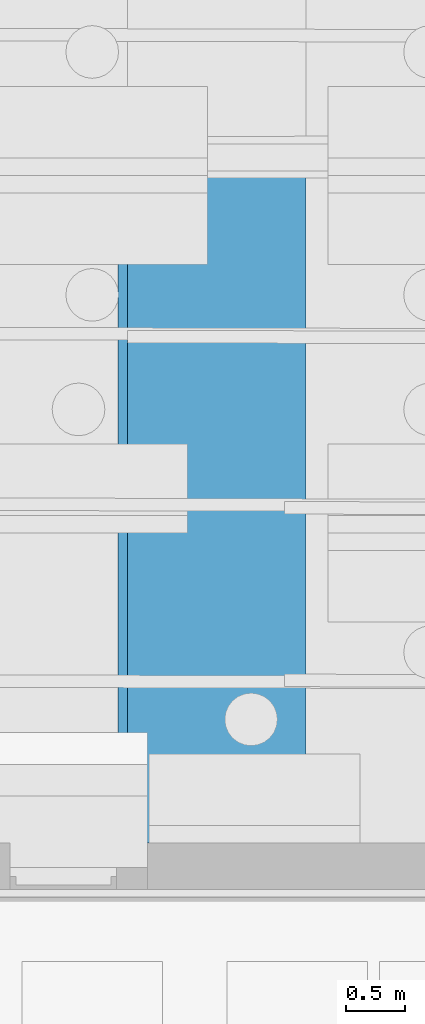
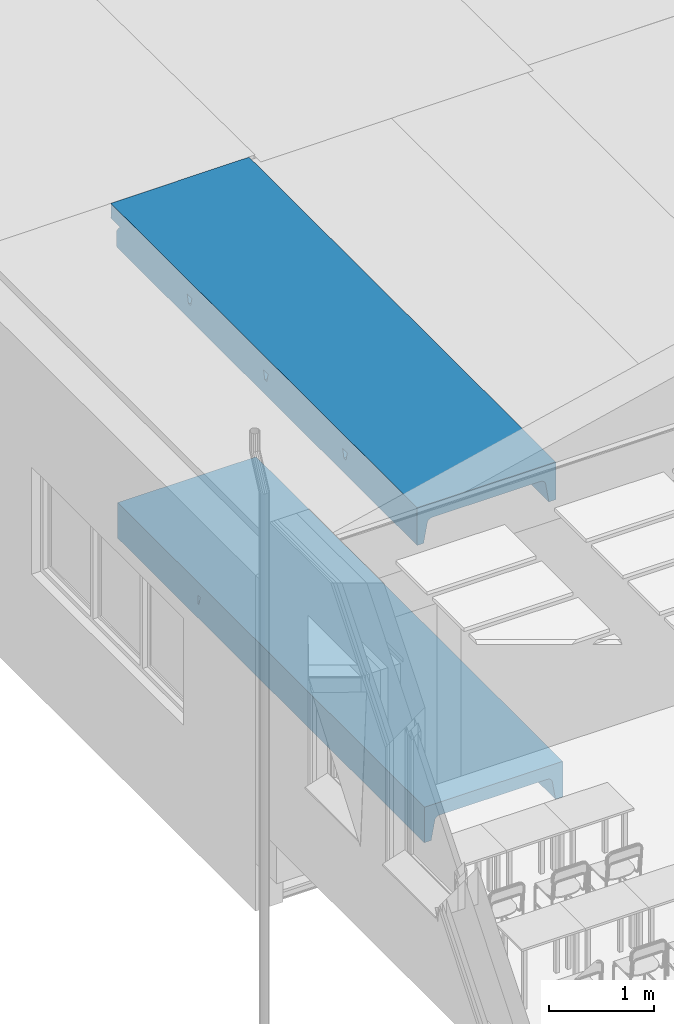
# One storey, part 14 of 153: 2 beams.
"""IFC2X3 building model written with IfcOpenShell, lengths in millimetres."""

from ifc_helpers import new_model, entity, si_unit, converted_unit, derived_unit, money_unit, direction, frame, origin_with_axes, place, context, subcontext, project, spatial, faceted_brep, material, type_object, element, save


model = new_model("IFC2X3")

# Units and contexts
model_context = context("Model", 3, precision=0.01, world=origin_with_axes(), true_north=direction((0.0, 1.0)))
body_context = subcontext(model_context, "Body", "Model", "MODEL_VIEW")
ifc_project = project(units=[si_unit("LENGTHUNIT", "METRE", prefix="MILLI"), si_unit("AREAUNIT", "SQUARE_METRE"), si_unit("VOLUMEUNIT", "CUBIC_METRE"), converted_unit("PLANEANGLEUNIT", "DEGREE", entity("IfcPlaneAngleMeasure", 0.0174532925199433), si_unit("PLANEANGLEUNIT", "RADIAN"), dimensions=[0, 0, 0, 0, 0, 0, 0]), money_unit("EUR"), converted_unit("TIMEUNIT", "Year", entity("IfcTimeMeasure", 31557600.0), si_unit("TIMEUNIT", "SECOND"), dimensions=[0, 0, 1, 0, 0, 0, 0]), si_unit("MASSUNIT", "GRAM", prefix="KILO"), si_unit("THERMODYNAMICTEMPERATUREUNIT", "DEGREE_CELSIUS"), si_unit("LUMINOUSINTENSITYUNIT", "LUMEN"), si_unit("ENERGYUNIT", "JOULE", prefix="MEGA"), derived_unit("THERMALCONDUCTANCEUNIT", [(si_unit("POWERUNIT", "WATT"), 1), (si_unit("LENGTHUNIT", "METRE"), -1), (si_unit("THERMODYNAMICTEMPERATUREUNIT", "KELVIN"), -1)]), derived_unit("SPECIFICHEATCAPACITYUNIT", [(si_unit("ENERGYUNIT", "JOULE"), 1), (si_unit("MASSUNIT", "GRAM", prefix="KILO"), -1), (si_unit("THERMODYNAMICTEMPERATUREUNIT", "KELVIN"), -1)]), derived_unit("MASSDENSITYUNIT", [(si_unit("MASSUNIT", "GRAM", prefix="KILO"), 1), (si_unit("VOLUMEUNIT", "CUBIC_METRE"), -1)])], contexts=[model_context])

# Site, building, storey
site_placement = place(None, frame((0.0, 0.0, 8650.0), z_axis=(0.0, 0.0, 1.0), x_axis=(1.0, 0.0, 0.0)))
site = spatial("IfcSite", under=ifc_project, at=site_placement, Name="43301:001:0844", CompositionType="ELEMENT")
building_placement = place(site_placement, origin_with_axes())
building = spatial("IfcBuilding", under=site, at=building_placement, Name="Kuressaare Ametikooli tuulikute mehaanikute õppekorpus", CompositionType="ELEMENT")
storey_placement = place(building_placement, frame((0.0, 0.0, 4100.0), z_axis=(0.0, 0.0, 1.0), x_axis=(1.0, 0.0, 0.0)))
storey = spatial("IfcBuildingStorey", under=building, at=storey_placement, Name="2.korrus", CompositionType="ELEMENT", Elevation=4100.0)

# Beams
ifc_material = material(Name="GENEERILINE - KONSTRUKTRIOON")
beam_type_1 = type_object("IfcBeamType", Name="Precast Double Tee 2 1527 x 440", PredefinedType="NOTDEFINED")
beam_1_placement = place(storey_placement, frame((90502.31710030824, 32034.33665916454, 2975.0), z_axis=(0.0, 0.0, 1.0), x_axis=(-1.0, 0.0, 0.0)))
element("IfcBeam", 1, at=beam_1_placement, inside=storey, type_object=beam_type_1, material=ifc_material, context=body_context, shape_type="Brep", body=[
    faceted_brep([(692.2949924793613, 5851.267735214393, -440.0001340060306), (692.2949924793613, 121.0682299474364, -440.0001340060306), (691.3689364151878, 121.0656825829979, -434.9999999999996), (691.3689364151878, 114.3234227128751, -434.9999999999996), (658.6683809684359, 114.2061630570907, -258.4370837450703), (652.713619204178, 133.4062917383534, -226.2850273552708), (649.7230638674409, 145.8392759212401, -210.1378651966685), (649.7230638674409, 1474.229054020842, -210.1378651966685), (661.1458352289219, 1488.80525832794, -271.8138152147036), (661.1458352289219, 1528.80540115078, -271.8138152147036), (649.7230638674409, 1543.442010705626, -210.1378651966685), (649.7230638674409, 2929.978512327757, -210.1378651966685), (661.1458352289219, 2944.554716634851, -271.8138152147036), (661.1458352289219, 2984.554859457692, -271.8138152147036), (649.7230638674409, 2999.191469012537, -210.1378651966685), (649.7230638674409, 4439.785670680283, -210.1378651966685), (661.1458352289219, 4454.361874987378, -271.8138152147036), (661.1458352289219, 4494.362017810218, -271.8138152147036), (649.7230638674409, 4508.998627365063, -210.1378651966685), (649.7230638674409, 5851.267735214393, -210.1378651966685), (763.5606534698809, 5851.267735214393, -440.0001340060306), (763.5606534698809, 121.2642651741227, -440.0001340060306), (763.5606534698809, 121.2642651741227, -434.9999999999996), (763.5606534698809, 114.5834813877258, -434.9999999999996), (763.5606534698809, 114.5840200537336, -258.4370837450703), (763.5606534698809, 133.8055997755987, -226.2850273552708), (763.5606534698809, 156.671540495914, -196.6139201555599), (644.9890973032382, 156.2444061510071, -196.6139201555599), (644.7992800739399, 1470.910907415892, -196.0716523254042), (644.7992800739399, 156.7741320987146, -196.0716523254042), (635.9235751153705, 1468.131666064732, -184.2363394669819), (763.5606534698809, 1467.790582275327, -184.2363394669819), (763.5606534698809, 1488.531575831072, -271.8138152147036), (763.5606534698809, 1528.531718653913, -271.8138152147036), (644.7992800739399, 1546.786325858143, -196.0716523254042), (763.5606534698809, 1549.271750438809, -184.2365347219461), (635.923721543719, 1549.612833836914, -184.2365347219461), (644.7992800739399, 2926.660365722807, -196.0716523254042), (763.5606534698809, 2923.540040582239, -184.2363394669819), (763.5606534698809, 2944.281034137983, -271.8138152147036), (635.9235751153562, 2923.881124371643, -184.2363394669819), (763.5606534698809, 2984.281176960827, -271.8138152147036), (763.5606534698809, 3005.02120874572, -184.2365347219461), (635.923721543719, 3005.362292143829, -184.2365347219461), (644.7992800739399, 3002.535784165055, -196.0716523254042), (644.7992800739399, 4436.467524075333, -196.0716523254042), (763.5606534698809, 4454.08819249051, -271.8138152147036), (635.9235751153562, 4433.68828272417, -184.2363394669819), (763.5606534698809, 4433.347198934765, -184.2363394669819), (763.5606534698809, 4494.088335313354, -271.8138152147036), (763.5606534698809, 4514.828367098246, -184.2365347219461), (635.923721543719, 4515.169450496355, -184.2365347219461), (644.7992800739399, 4512.342942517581, -196.0716523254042), (644.7992800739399, 5851.267735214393, -196.0716523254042), (-594.8169498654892, 5851.267735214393, -169.8234995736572), (-609.6555344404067, 5851.267735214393, -171.7308167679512), (-623.5131529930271, 5851.267735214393, -177.3688890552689), (-635.4684781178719, 5851.267735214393, -186.3628677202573), (-646.4799073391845, 5851.267735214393, -201.5128762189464), (-651.8762025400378, 5851.267735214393, -219.4476003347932), (-687.2045850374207, 5851.267735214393, -440.0001340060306), (-763.5606534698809, 5851.267735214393, -440.0001340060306), (-763.5606534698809, 5851.267735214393, 0.0), (763.5606534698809, 5851.267735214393, 0.0), (635.8579307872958, 5851.267735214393, -184.148806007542), (619.5598957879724, 5851.267735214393, -173.4631810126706), (600.4311136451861, 5851.267735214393, -169.7351493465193), (597.3692682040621, 5851.267735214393, -169.8234995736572), (763.5606534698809, 6.465779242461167, 0.0), (763.5606534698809, 6.465779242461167, -169.3128783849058), (763.5606534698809, 0.0, -169.3128921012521), (763.5606534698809, 0.0, -169.8347433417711), (763.5606534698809, 182.8651209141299, -169.8347433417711), (763.5606534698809, 1562.045256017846, -169.8663369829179), (763.5606534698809, 1553.846380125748, -175.4406717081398), (763.5606534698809, 1463.215932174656, -175.4405967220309), (763.5606534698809, 1455.017122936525, -169.8663369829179), (763.5606534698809, 3009.59583843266, -175.4406717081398), (763.5606534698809, 2918.965390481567, -175.4405967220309), (763.5606534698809, 2910.766581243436, -169.8663369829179), (763.5606534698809, 3017.794714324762, -169.8663369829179), (763.5606534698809, 4428.772548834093, -175.4405967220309), (763.5606534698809, 4420.573739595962, -169.8663369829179), (763.5606534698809, 4527.601872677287, -169.8663369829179), (763.5606534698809, 4519.402996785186, -175.4406717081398), (619.5598957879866, 178.7972896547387, -173.4631810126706), (635.8579307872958, 168.4040446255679, -184.148806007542), (600.9421371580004, 182.2793147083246, -169.8347433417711), (635.8579307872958, 1468.086315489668, -184.148806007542), (622.5759094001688, 1463.592684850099, -175.4405967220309), (622.5760237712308, 1554.223132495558, -175.4406717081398), (635.8579307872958, 1549.658636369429, -184.148806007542), (635.8579307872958, 2923.835773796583, -184.148806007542), (622.5759094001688, 2919.34214315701, -175.4405967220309), (635.8579307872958, 3005.408094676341, -184.148806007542), (622.5760237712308, 3009.972590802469, -175.4406717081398), (635.8579307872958, 4433.642932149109, -184.148806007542), (622.5759094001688, 4429.149301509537, -175.4405967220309), (622.5760237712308, 4519.779749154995, -175.4406717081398), (635.8579307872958, 4515.215253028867, -184.148806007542), (-609.6555344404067, 3018.722026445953, -171.7308167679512), (-609.6555344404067, 4426.985716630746, -171.7308167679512), (-595.1502172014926, 4424.204614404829, -169.8663369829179), (-595.1502172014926, 4531.232747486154, -169.8663369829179), (-609.6555344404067, 4528.529184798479, -171.7308167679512), (-594.8169498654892, 0.0, -169.8234995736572), (-594.9044243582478, 0.0, -169.8347433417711), (-594.9044243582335, 177.971476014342, -169.8347433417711), (-609.6555344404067, 176.0637267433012, -171.7308167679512), (-609.6555344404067, 1461.429099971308, -171.7308167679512), (-595.1502172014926, 1458.647997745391, -169.8663369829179), (-595.1502172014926, 1565.676130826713, -169.8663369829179), (-609.6555344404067, 1562.972568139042, -171.7308167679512), (-609.6555344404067, 2917.17855827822, -171.7308167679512), (-595.1502172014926, 2914.397456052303, -169.8663369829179), (-595.1502172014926, 3021.425589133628, -169.8663369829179), (-618.7738557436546, 4523.097000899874, -175.4406717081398), (-623.5131529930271, 4522.106821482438, -177.3688890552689), (-632.6420313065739, 4518.559431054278, -184.2365347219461), (-635.4684781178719, 4518.063426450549, -186.3628677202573), (-646.4799073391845, 4514.50503063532, -201.5128762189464), (-651.8762025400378, 4510.272153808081, -219.4476003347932), (-686.4036572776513, 109.3602256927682, -434.9999999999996), (-686.4036572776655, 117.2757512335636, -434.9999999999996), (-687.2045850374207, 117.273548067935, -440.0001340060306), (-660.2642887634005, 4497.893214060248, -271.8138152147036), (-660.2642887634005, 4457.893071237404, -271.8138152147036), (-651.8762025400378, 4445.468753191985, -219.4476003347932), (-651.8762025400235, 3000.464995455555, -219.4476003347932), (-660.2642887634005, 2988.086055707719, -271.8138152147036), (-660.2642887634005, 2948.085912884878, -271.8138152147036), (-651.8762025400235, 2935.661594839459, -219.4476003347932), (-651.8762025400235, 1544.71553714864, -219.4476003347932), (-660.2642887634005, 1532.336597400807, -271.8138152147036), (-660.2642887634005, 1492.336454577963, -271.8138152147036), (-651.8762025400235, 1479.912136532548, -219.4476003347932), (-651.8762025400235, 133.9759640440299, -219.4476003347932), (-652.9714302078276, 128.7027781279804, -226.2850273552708), (-658.1215870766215, 109.4626458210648, -258.4370837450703), (-763.5606534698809, 117.0635103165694, -440.0001340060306), (-763.5606534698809, 117.0635103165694, -434.9999999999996), (-763.5606534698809, 109.0822804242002, -434.9999999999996), (-763.5606534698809, 109.082819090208, -258.4370837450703), (-763.5606534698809, 128.3043988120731, -226.2850273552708), (-763.5606534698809, 151.1703395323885, -196.6139201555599), (-763.5606534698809, 177.3639199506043, -169.8347433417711), (-763.5606534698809, 0.0, -169.8347433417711), (-763.5606534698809, 0.0, 0.0), (-763.5606534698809, 1467.296849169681, -175.4405967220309), (-763.5606534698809, 1471.871499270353, -184.2363394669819), (-763.5606534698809, 1492.612492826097, -271.8138152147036), (-763.5606534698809, 1532.612635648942, -271.8138152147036), (-763.5606534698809, 1553.352667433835, -184.2365347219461), (-763.5606534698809, 1557.927297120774, -175.4406717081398), (-763.5606534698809, 1566.126173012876, -169.8663369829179), (-763.5606534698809, 1459.098039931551, -169.8663369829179), (-763.5606534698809, 2927.620957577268, -184.2363394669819), (-763.5606534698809, 2948.361951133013, -271.8138152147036), (-763.5606534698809, 2988.362093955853, -271.8138152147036), (-763.5606534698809, 3009.10212574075, -184.2365347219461), (-763.5606534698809, 3013.676755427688, -175.4406717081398), (-763.5606534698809, 3021.875631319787, -169.8663369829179), (-763.5606534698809, 2914.847498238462, -169.8663369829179), (-763.5606534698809, 2923.046307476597, -175.4405967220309), (-763.5606534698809, 4458.169109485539, -271.8138152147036), (-763.5606534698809, 4498.169252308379, -271.8138152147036), (-763.5606534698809, 4518.909284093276, -184.2365347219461), (-763.5606534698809, 4523.483913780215, -175.4406717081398), (-763.5606534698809, 4531.682789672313, -169.8663369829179), (-763.5606534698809, 4424.654656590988, -169.8663369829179), (-763.5606534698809, 4432.853465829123, -175.4405967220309), (-763.5606534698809, 4437.428115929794, -184.2363394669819), (-323.4127005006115, 0.0, 0.0), (619.5598957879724, 4522.696353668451, -173.4631810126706), (600.4311136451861, 0.0, -169.7351493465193), (601.104246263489, 4528.03600394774, -169.8663369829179), (601.104246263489, 4421.007870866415, -169.8663369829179), (619.5598957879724, 4426.248911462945, -173.4631810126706), (619.5598957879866, 3012.889195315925, -173.4631810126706), (601.104246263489, 3018.228845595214, -169.8663369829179), (601.104246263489, 2911.200712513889, -169.8663369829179), (619.5598957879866, 2916.441753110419, -173.4631810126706), (619.5598957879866, 1557.13973700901, -173.4631810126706), (601.104246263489, 1562.479387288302, -169.8663369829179), (601.104246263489, 1455.451254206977, -169.8663369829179), (619.5598957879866, 1460.692294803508, -173.4631810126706), (600.9421371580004, 0.0, -169.8347433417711), (597.3692682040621, 0.0, -169.8234995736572), (-323.4127005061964, 0.0, -169.7005373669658), (-618.7738557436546, 3013.289842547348, -175.4406717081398), (-623.5131529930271, 3012.299663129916, -177.3688890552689), (-623.5131529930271, 4433.482119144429, -177.3688890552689), (-618.7736714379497, 4432.466552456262, -175.4405967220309), (-642.9192157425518, 151.6049302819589, -196.6139201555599), (-635.4684781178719, 161.6586568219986, -186.3628677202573), (-623.5131529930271, 170.4990258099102, -177.3688890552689), (-618.7736714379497, 1466.909935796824, -175.4405967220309), (-623.5131529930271, 1467.925502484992, -177.3688890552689), (-618.7738557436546, 1557.540384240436, -175.4406717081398), (-623.5131529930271, 1556.550204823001, -177.3688890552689), (-623.5131529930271, 2923.674960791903, -177.3688890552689), (-618.7736714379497, 2922.659394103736, -175.4405967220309), (-646.4799073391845, 4441.206847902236, -201.5128762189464), (-632.641771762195, 4437.078262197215, -184.2363394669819), (-635.4684781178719, 4437.589442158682, -186.3628677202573), (-646.4799073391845, 3004.697872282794, -201.5128762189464), (-635.4684781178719, 3008.256268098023, -186.3628677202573), (-632.6420313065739, 3008.752272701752, -184.2365347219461), (-635.4684781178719, 2927.782283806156, -186.3628677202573), (-646.4799073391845, 2931.399689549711, -201.5128762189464), (-632.641771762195, 2927.271103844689, -184.2363394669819), (-646.4799073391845, 1548.948413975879, -201.5128762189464), (-635.4684781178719, 1552.506809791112, -186.3628677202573), (-632.6420313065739, 1553.002814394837, -184.2365347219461), (-632.641771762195, 1471.521645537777, -184.2363394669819), (-635.4684781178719, 1472.032825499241, -186.3628677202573), (-646.4799073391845, 1475.650231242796, -201.5128762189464), (-646.4799073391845, 147.8167391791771, -201.5128762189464)], [[[0, 1, 2, 3, 4, 5, 6, 7, 8, 9, 10, 11, 12, 13, 14, 15, 16, 17, 18, 19]], [[20, 21, 1, 0]], [[22, 2, 1, 21]], [[22, 23, 3, 2]], [[4, 3, 23, 24]], [[24, 25, 5, 4]], [[26, 27, 6, 5, 25]], [[28, 7, 6, 27, 29]], [[30, 31, 32, 8, 7, 28]], [[33, 9, 8, 32]], [[34, 10, 9, 33, 35, 36]], [[37, 11, 10, 34]], [[38, 39, 12, 11, 37, 40]], [[13, 12, 39, 41]], [[14, 13, 41, 42, 43, 44]], [[15, 14, 44, 45]], [[46, 16, 15, 45, 47, 48]], [[16, 46, 49, 17]], [[17, 49, 50, 51, 52, 18]], [[52, 53, 19, 18]], [[54, 55, 56, 57, 58, 59, 60, 61, 62, 63, 20, 0, 19, 53, 64, 65, 66, 67]], [[23, 22, 21, 20, 63, 68, 69, 70, 71, 72, 26, 25, 24], [73, 74, 35, 33, 32, 31, 75, 76], [77, 42, 41, 39, 38, 78, 79, 80], [50, 49, 46, 48, 81, 82, 83, 84]], [[85, 86, 29, 27, 26, 72, 87]], [[30, 28, 29, 86, 88]], [[88, 89, 75, 31, 30]], [[90, 91, 36, 35, 74]], [[34, 36, 91, 92, 40, 37]], [[93, 78, 38, 40, 92]], [[94, 43, 42, 77, 95]], [[43, 94, 96, 47, 45, 44]], [[81, 48, 47, 96, 97]], [[51, 50, 84, 98, 99]], [[64, 53, 52, 51, 99]], [[100, 101, 102, 103, 104, 55, 54, 105, 106, 107, 108, 109, 110, 111, 112, 113, 114, 115]], [[56, 55, 104, 116, 117]], [[57, 56, 117, 118, 119]], [[120, 58, 57, 119]], [[121, 59, 58, 120]], [[122, 123, 124, 60, 59, 121, 125, 126, 127, 128, 129, 130, 131, 132, 133, 134, 135, 136, 137, 138]], [[60, 124, 139, 61]], [[61, 139, 140, 141, 142, 143, 144, 145, 146, 147, 62], [148, 149, 150, 151, 152, 153, 154, 155], [156, 157, 158, 159, 160, 161, 162, 163], [164, 165, 166, 167, 168, 169, 170, 171]], [[62, 147, 172, 68, 63]], [[65, 64, 99, 98, 173]], [[174, 66, 65, 173, 175, 176, 177, 178, 179, 180, 181, 182, 183, 184, 185, 85, 87, 186]], [[66, 174, 187, 67]], [[67, 187, 105, 54]], [[188, 69, 68, 172]], [[70, 69, 188]], [[186, 71, 70, 188, 172, 147, 146, 106, 105, 187, 174]], [[87, 72, 71, 186]], [[183, 182, 90, 74, 73]], [[185, 184, 76, 75, 89]], [[76, 184, 183, 73]], [[180, 79, 78, 93, 181]], [[180, 179, 80, 79]], [[178, 95, 77, 80, 179]], [[82, 81, 97, 177, 176]], [[175, 83, 82, 176]], [[98, 84, 83, 175, 173]], [[89, 88, 86, 85, 185]], [[91, 90, 182, 181, 93, 92]], [[95, 178, 177, 97, 96, 94]], [[189, 190, 191, 192, 101, 100]], [[102, 101, 192, 170, 169]], [[168, 103, 102, 169]], [[116, 104, 103, 168, 167]], [[145, 107, 106, 146]], [[144, 193, 194, 195, 108, 107, 145]], [[196, 109, 108, 195, 197]], [[148, 155, 110, 109, 196]], [[110, 155, 154, 111]], [[154, 153, 198, 112, 111]], [[112, 198, 199, 200, 201, 113]], [[162, 114, 113, 201, 163]], [[162, 161, 115, 114]], [[160, 189, 100, 115, 161]], [[118, 117, 116, 167, 166]], [[120, 119, 118, 166, 165, 125, 121]], [[123, 122, 141, 140]], [[123, 140, 139, 124]], [[164, 126, 125, 165]], [[202, 127, 126, 164, 171, 203, 204]], [[202, 205, 128, 127]], [[128, 205, 206, 207, 159, 158, 129]], [[158, 157, 130, 129]], [[208, 209, 131, 130, 157, 156, 210]], [[131, 209, 211, 132]], [[133, 132, 211, 212, 213, 152, 151]], [[133, 151, 150, 134]], [[214, 215, 216, 135, 134, 150, 149]], [[136, 135, 216, 217]], [[144, 143, 137, 136, 217, 193]], [[138, 137, 143, 142]], [[142, 141, 122, 138]], [[149, 148, 196, 197, 214]], [[153, 152, 213, 199, 198]], [[159, 207, 190, 189, 160]], [[163, 201, 200, 210, 156]], [[192, 191, 203, 171, 170]], [[207, 206, 204, 203, 191, 190]], [[216, 215, 194, 193, 217]], [[214, 197, 195, 194, 215]], [[199, 213, 212, 208, 210, 200]], [[204, 206, 205, 202]], [[209, 208, 212, 211]]]),
])
beam_type_2 = type_object("IfcBeamType", Name="Precast Double Tee 3 1525 x 415", PredefinedType="NOTDEFINED")
beam_2_placement = place(storey_placement, frame((90580.25241851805, 32034.33665916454, -539.9999999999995), z_axis=(0.0, 0.0, 1.0), x_axis=(-1.0, 0.0, 0.0)))
element("IfcBeam", 2, at=beam_2_placement, inside=storey, type_object=beam_type_2, material=ifc_material, context=body_context, shape_type="Brep", body=[
    faceted_brep([(762.5000000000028, 5851.267735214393, -415.0001340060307), (762.5000000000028, 5851.267735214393, 0.0), (762.5000000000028, 0.0, 0.0), (762.5000000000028, 0.0, -415.0001340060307), (762.5000000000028, 1571.86968267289, -164.3701977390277), (762.5000000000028, 1551.129650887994, -251.9474782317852), (762.5000000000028, 1531.129121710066, -251.9474782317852), (762.5000000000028, 1531.1291217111, -149.9999999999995), (762.5000000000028, 1584.643188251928, -149.9999999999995), (762.5000000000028, 1576.444312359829, -155.574334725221), (-630.3742921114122, 5851.267735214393, -164.5802967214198), (-642.2018747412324, 5851.267735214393, -180.3584478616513), (-647.7450826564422, 5851.267735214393, -199.2823642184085), (-682.2510280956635, 5851.267735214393, -415.0001340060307), (-762.5000000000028, 5851.267735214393, -415.0001340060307), (-762.5000000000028, 5851.267735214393, 0.0), (686.7096088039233, 5851.267735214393, -415.0001340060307), (644.8621749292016, 5851.267735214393, -188.8133237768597), (639.0698943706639, 5851.267735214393, -173.3049793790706), (628.3234422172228, 5851.267735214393, -160.712401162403), (613.9186038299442, 5851.267735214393, -152.5539766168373), (597.5922853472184, 5851.267735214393, -149.8134319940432), (596.1468073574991, 5851.267735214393, -149.8234995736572), (-594.4825828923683, 5851.267735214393, -149.8234995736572), (-613.7646293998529, 5851.267735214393, -153.9519916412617), (-762.5000000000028, 0.0, 0.0), (686.7096088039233, 0.0, -415.0001340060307), (-762.5000000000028, 0.0, -415.0001340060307), (-682.2510280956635, 0.0, -415.0001340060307), (-647.7450826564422, 0.0, -199.2823642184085), (-642.2018747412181, 0.0, -180.3584478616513), (-630.3742921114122, 0.0, -164.5802967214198), (-613.7646293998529, 0.0, -153.9519916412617), (-594.4825828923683, 0.0, -149.8234995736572), (596.1468073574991, 0.0, -149.8234995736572), (597.5922853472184, 0.0, -149.8134319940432), (613.9186038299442, 0.0, -152.5539766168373), (628.3234422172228, 0.0, -160.712401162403), (639.0698943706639, 0.0, -173.3049793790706), (644.8621749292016, 0.0, -188.8133237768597), (631.4449901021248, 1572.219900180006, -164.3701977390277), (639.0698943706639, 1570.083591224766, -173.3049793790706), (644.8621749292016, 1566.395429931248, -188.8133237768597), (656.5427957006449, 1551.412799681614, -251.9474782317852), (656.5427957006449, 1511.412656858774, -251.9474782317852), (762.4465555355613, 1511.12965088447, -251.9474782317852), (762.3569957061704, 1477.615437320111, -149.9999999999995), (762.3911299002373, 1490.388805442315, -164.370002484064), (762.3789051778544, 1485.814188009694, -155.5742597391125), (598.7037318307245, 1478.052766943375, -149.9999999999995), (598.7037318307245, 1585.0809000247, -149.9999999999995), (613.9186038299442, 1581.283786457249, -152.5539766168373), (619.2514680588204, 1576.827114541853, -155.574334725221), (628.3234422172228, 1574.13062084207, -160.712401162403), (-642.2018747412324, 4501.985390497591, -180.3584478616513), (-630.3742921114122, 4505.690361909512, -164.5802967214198), (-647.7450826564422, 4497.518645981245, -199.2823642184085), (-647.7450826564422, 2960.086954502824, -199.2823642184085), (-647.7450826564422, 1567.370380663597, -199.2823642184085), (-656.169328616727, 1554.920752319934, -251.9474782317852), (-656.169328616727, 1514.920609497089, -251.9474782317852), (-647.7450826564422, 1502.425406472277, -199.2823642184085), (-656.1693286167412, 4485.069017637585, -251.9474782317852), (-656.1693286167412, 4445.06887481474, -251.9474782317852), (-647.7450826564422, 4432.573671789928, -199.2823642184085), (-647.7450826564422, 3025.031928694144, -199.2823642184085), (-656.169328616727, 3012.582300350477, -251.9474782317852), (-656.169328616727, 2972.582157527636, -251.9474782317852), (-762.5000000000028, 4445.353021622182, -251.9474782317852), (-762.5000000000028, 4485.353164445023, -251.9474782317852), (-762.5000000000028, 4506.093196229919, -164.3701977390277), (-762.5000000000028, 4510.667825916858, -155.574334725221), (-762.5000000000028, 4518.866701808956, -149.9999999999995), (-762.5000000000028, 4411.838568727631, -149.9999999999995), (-762.5000000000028, 4420.037377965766, -155.5742597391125), (-762.5000000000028, 4424.612028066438, -164.370002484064), (-762.5000000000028, 3012.866447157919, -251.9474782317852), (-762.5000000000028, 3033.606478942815, -164.3701977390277), (-762.5000000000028, 3038.181108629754, -155.574334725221), (-762.5000000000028, 3046.379984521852, -149.9999999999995), (-762.5000000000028, 2939.351851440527, -149.9999999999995), (-762.5000000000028, 2947.550660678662, -155.5742597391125), (-762.5000000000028, 2952.125310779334, -164.370002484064), (-762.5000000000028, 2972.866304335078, -251.9474782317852), (-762.5000000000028, 1575.944930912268, -164.3701977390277), (-762.5000000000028, 1580.519560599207, -155.574334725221), (-762.5000000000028, 1588.718436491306, -149.9999999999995), (-762.5000000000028, 1481.690303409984, -149.9999999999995), (-762.5000000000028, 1489.889112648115, -155.5742597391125), (-762.5000000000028, 1494.463762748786, -164.370002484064), (-762.5000000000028, 1515.204756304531, -251.9474782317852), (-762.5000000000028, 1555.204899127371, -251.9474782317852), (644.8621749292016, 1496.491794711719, -188.8133237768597), (613.9186038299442, 1481.768583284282, -152.5539766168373), (-595.3069248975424, 1481.243514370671, -149.9999999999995), (-595.3069248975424, 1588.271647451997, -149.9999999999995), (-613.7646293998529, 1582.508280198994, -153.9519916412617), (-613.7646293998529, 2944.767109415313, -153.9519916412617), (-595.3069248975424, 2938.905062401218, -149.9999999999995), (-595.3069248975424, 3045.933195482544, -149.9999999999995), (-613.7646293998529, 3040.169828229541, -153.9519916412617), (-613.7646293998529, 4417.253826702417, -153.9519916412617), (-595.3069248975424, 4411.391779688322, -149.9999999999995), (-595.3069248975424, 4518.419912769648, -149.9999999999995), (-613.7646293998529, 4512.656545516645, -153.9519916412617), (-613.7646293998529, 1487.105561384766, -153.9519916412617), (-616.2999886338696, 4510.27713651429, -155.574334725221), (-630.0459544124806, 4505.739240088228, -164.3701977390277), (-642.2018747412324, 1497.928837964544, -180.3584478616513), (-630.3742921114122, 1494.160488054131, -164.5802967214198), (-630.0456492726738, 1494.109805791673, -164.370002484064), (-616.2998714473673, 1489.498422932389, -155.5742597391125), (619.2513356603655, 1486.196666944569, -155.5742597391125), (628.3234422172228, 1488.84476179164, -160.712401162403), (631.4448234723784, 1490.738732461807, -164.370002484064), (639.0698943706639, 1492.834428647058, -173.3049793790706), (-642.2018747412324, 2955.590385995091, -180.3584478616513), (-642.2018747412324, 1571.83712517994, -180.3584478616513), (-630.0459544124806, 1575.590974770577, -164.3701977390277), (-630.3742921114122, 1575.54209659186, -164.5802967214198), (-642.2018747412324, 4428.077103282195, -180.3584478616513), (-630.0456492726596, 4424.258071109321, -164.370002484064), (-630.3742921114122, 4424.308753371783, -164.5802967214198), (-642.2018747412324, 3029.498673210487, -180.3584478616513), (-630.3742921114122, 3033.203644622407, -164.5802967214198), (-630.0459544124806, 3033.252522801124, -164.3701977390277), (-630.0456492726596, 2951.771353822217, -164.370002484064), (-630.3742921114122, 2951.822036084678, -164.5802967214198), (-616.2998714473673, 4419.64668825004, -155.5742597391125), (-616.2999886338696, 3037.790419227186, -155.574334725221), (-616.2998714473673, 2947.159970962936, -155.5742597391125), (-616.2999886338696, 1580.128871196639, -155.574334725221)], [[[0, 1, 2, 3], [4, 5, 6, 7, 8, 9]], [[10, 11, 12, 13, 14, 15, 1, 0, 16, 17, 18, 19, 20, 21, 22, 23, 24]], [[1, 15, 25, 2]], [[26, 3, 2, 25, 27, 28, 29, 30, 31, 32, 33, 34, 35, 36, 37, 38, 39]], [[16, 0, 3, 26]], [[4, 40, 41, 42, 43, 5]], [[5, 43, 44, 45, 6]], [[46, 7, 6, 45, 47, 48]], [[46, 49, 50, 8, 7]], [[8, 50, 51, 52, 9]], [[9, 52, 53, 40, 4]], [[54, 11, 10, 55]], [[56, 12, 11, 54]], [[57, 58, 59, 60, 61, 29, 28, 13, 12, 56, 62, 63, 64, 65, 66, 67]], [[14, 13, 28, 27]], [[15, 14, 27, 25], [68, 69, 70, 71, 72, 73, 74, 75], [76, 77, 78, 79, 80, 81, 82, 83], [84, 85, 86, 87, 88, 89, 90, 91]], [[44, 43, 42, 17, 16, 26, 39, 92]], [[17, 42, 41, 18]], [[41, 40, 53, 19, 18]], [[53, 52, 51, 20, 19]], [[20, 51, 50, 49, 93, 36, 35, 21]], [[22, 21, 35, 34]], [[23, 22, 34, 33]], [[94, 95, 96, 97, 98, 99, 100, 101, 102, 103, 104, 24, 23, 33, 32, 105]], [[24, 104, 106, 107, 55, 10]], [[29, 61, 108, 30]], [[30, 108, 109, 31]], [[110, 111, 105, 32, 31, 109]], [[93, 112, 113, 37, 36]], [[113, 114, 115, 38, 37]], [[38, 115, 92, 39]], [[92, 115, 114, 47, 45, 44]], [[114, 113, 112, 48, 47]], [[112, 93, 49, 46, 48]], [[54, 55, 107, 70, 69, 62, 56]], [[116, 117, 58, 57]], [[118, 84, 91, 59, 58, 117, 119]], [[59, 91, 90, 60]], [[60, 90, 89, 110, 109, 108, 61]], [[68, 63, 62, 69]], [[120, 64, 63, 68, 75, 121, 122]], [[64, 120, 123, 65]], [[124, 125, 77, 76, 66, 65, 123]], [[67, 66, 76, 83]], [[57, 67, 83, 82, 126, 127, 116]], [[70, 107, 106, 71]], [[106, 104, 103, 72, 71]], [[72, 103, 102, 73]], [[102, 101, 128, 74, 73]], [[74, 128, 121, 75]], [[125, 129, 78, 77]], [[100, 99, 79, 78, 129]], [[99, 98, 80, 79]], [[97, 130, 81, 80, 98]], [[130, 126, 82, 81]], [[131, 85, 84, 118]], [[95, 86, 85, 131, 96]], [[94, 87, 86, 95]], [[111, 88, 87, 94, 105]], [[110, 89, 88, 111]], [[131, 118, 119, 127, 126, 130, 97, 96]], [[100, 129, 125, 124, 122, 121, 128, 101]], [[127, 119, 117, 116]], [[120, 122, 124, 123]]]),
])

save(model, "model.ifc")
